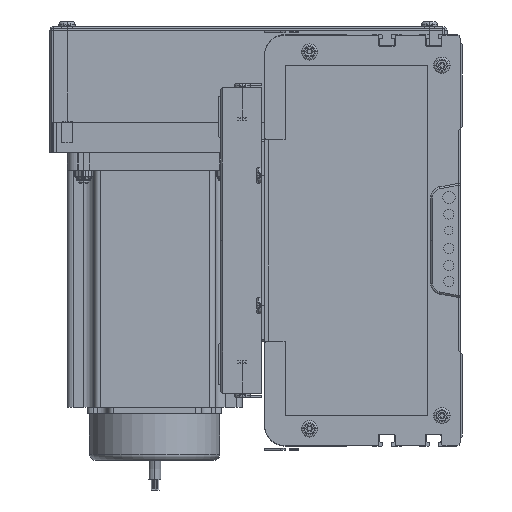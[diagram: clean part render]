
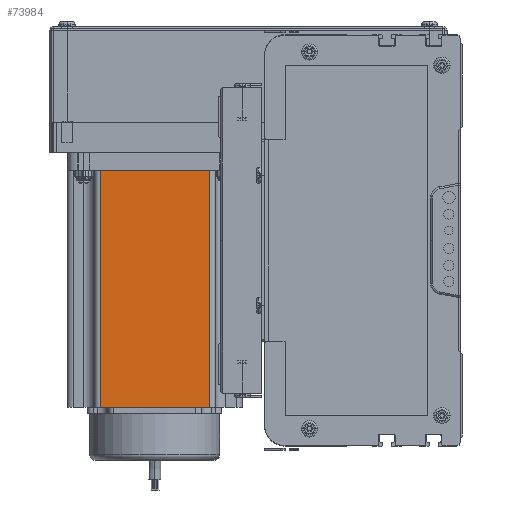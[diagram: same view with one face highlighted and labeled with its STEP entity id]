
A CAD part, left-side view. The second image highlights one B-rep face of the part: STEP entity #73984.
In plain terms, the highlighted planar face has unit normal (-1, 0, 0) as drawn and (0, -1, 0) by its records, which use the part's own axes.
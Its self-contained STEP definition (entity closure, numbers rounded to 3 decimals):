
#55862 = DIRECTION ( 'NONE',  ( 0., 0., -1. ) ) ;
#55864 = VECTOR ( 'NONE', #55862, 1000. ) ;
#55865 = CARTESIAN_POINT ( 'NONE',  ( 16.16, 0., 116.5 ) ) ;
#55866 = LINE ( 'NONE', #55865, #55864 ) ;
#55960 = CARTESIAN_POINT ( 'NONE',  ( 69.74, 0., 116.5 ) ) ;
#56490 = CARTESIAN_POINT ( 'NONE',  ( 0., 0., 0. ) ) ;
#56491 = LINE ( 'NONE', #56490, #56851 ) ;
#56632 = CARTESIAN_POINT ( 'NONE',  ( 16.16, 0., 116.5 ) ) ;
#56676 = DIRECTION ( 'NONE',  ( 0., 0., 1. ) ) ;
#56677 = VECTOR ( 'NONE', #56676, 1000. ) ;
#56678 = CARTESIAN_POINT ( 'NONE',  ( 69.74, 0., 116.5 ) ) ;
#56757 = LINE ( 'NONE', #56678, #56677 ) ;
#56850 = DIRECTION ( 'NONE',  ( 1., 0., 0. ) ) ;
#56851 = VECTOR ( 'NONE', #56850, 1000. ) ;
#56882 = DIRECTION ( 'NONE',  ( 0., 0., 1. ) ) ;
#56883 = DIRECTION ( 'NONE',  ( 0., 1., 0. ) ) ;
#56884 = CARTESIAN_POINT ( 'NONE',  ( 0., 0., 116.5 ) ) ;
#56888 = CARTESIAN_POINT ( 'NONE',  ( 16.16, 0., 0. ) ) ;
#56925 = CARTESIAN_POINT ( 'NONE',  ( 69.74, 0., 0. ) ) ;
#57066 = AXIS2_PLACEMENT_3D ( 'NONE', #56884, #56883, #56882 ) ;
#57225 = DIRECTION ( 'NONE',  ( 1., 0., 0. ) ) ;
#57226 = VECTOR ( 'NONE', #57225, 1000. ) ;
#57228 = CARTESIAN_POINT ( 'NONE',  ( 0., 0., 116.5 ) ) ;
#57230 = LINE ( 'NONE', #57228, #57226 ) ;
#57242 = PLANE ( 'NONE',  #57066 ) ;
#57255 = FACE_OUTER_BOUND ( 'NONE', #73823, .T. ) ;
#73523 = EDGE_CURVE ( 'NONE', #73859, #73916, #55866, .T. ) ;
#73592 = ORIENTED_EDGE ( 'NONE', *, *, #73958, .F. ) ;
#73594 = ORIENTED_EDGE ( 'NONE', *, *, #73795, .T. ) ;
#73597 = VERTEX_POINT ( 'NONE', #55960 ) ;
#73795 = EDGE_CURVE ( 'NONE', #73931, #73597, #56757, .T. ) ;
#73823 = EDGE_LOOP ( 'NONE', ( #73991, #73594, #73592, #73927 ) ) ;
#73856 = EDGE_CURVE ( 'NONE', #73916, #73931, #56491, .T. ) ;
#73859 = VERTEX_POINT ( 'NONE', #56632 ) ;
#73916 = VERTEX_POINT ( 'NONE', #56888 ) ;
#73927 = ORIENTED_EDGE ( 'NONE', *, *, #73523, .T. ) ;
#73931 = VERTEX_POINT ( 'NONE', #56925 ) ;
#73958 = EDGE_CURVE ( 'NONE', #73859, #73597, #57230, .T. ) ;
#73984 = ADVANCED_FACE ( 'NONE', ( #57255 ), #57242, .F. ) ;
#73991 = ORIENTED_EDGE ( 'NONE', *, *, #73856, .T. ) ;
